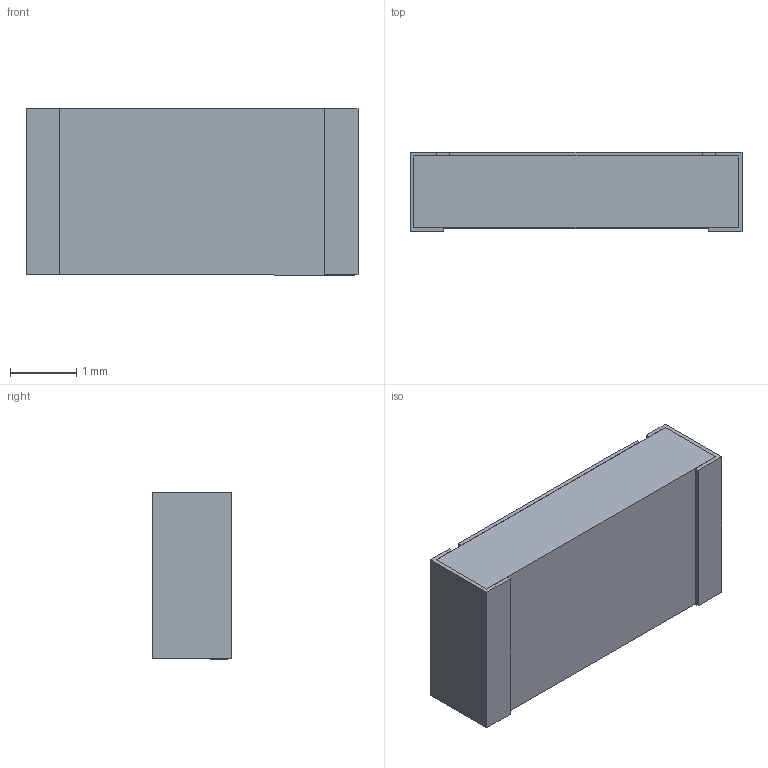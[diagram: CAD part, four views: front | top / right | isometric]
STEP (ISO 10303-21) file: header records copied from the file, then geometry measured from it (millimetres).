
FILE_DESCRIPTION (( 'STEP AP214' ), '1' );
FILE_NAME ('350215KFT.STEP', '2019-12-27T09:30:49', ( '' ), ( '' ), 'SwSTEP 2.0', 'SolidWorks 2018', '' );
FILE_SCHEMA (( 'AUTOMOTIVE_DESIGN' ));
Length unit declared in the file: millimetre
Products named in the file (1): 350215KFT
Bounding box: 5 x 1.2 x 2.5 mm (x, y, z)
Volume: 14.4 mm3; surface area: 82.4 mm2
Topology: 4 solids, 4 shells, 40 faces, 96 edges, 64 vertices
Faces by surface type: plane 40
Entity records: 1201 total; most frequent: CARTESIAN_POINT 201, ORIENTED_EDGE 192, DIRECTION 178, VECTOR 96, EDGE_CURVE 96, LINE 96, VERTEX_POINT 64, AXIS2_PLACEMENT_3D 41
